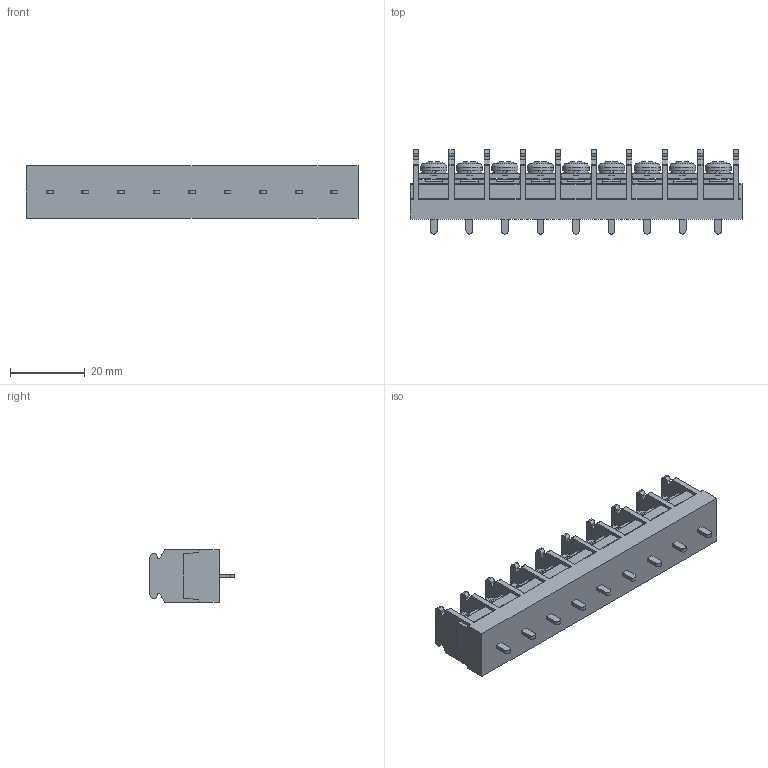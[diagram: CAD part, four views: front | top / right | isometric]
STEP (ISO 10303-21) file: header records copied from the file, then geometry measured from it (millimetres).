
FILE_DESCRIPTION(/* description */ ('Alibre Inc.'),/* implementation_level */ '2;1');
FILE_NAME(/* name */ 'export-8B3BFBFB-07F3-40FA-959B-8FBFAA630BCF',/* time_stamp */ '2021-02-13T14:03:16+09:00',/* author */ (''),/* organization */ (''),/* preprocessor_version */ 'ST-DEVELOPER v17',/* originating_system */ 'Alibre',/* authorisation */ '');
FILE_SCHEMA (('CONFIG_CONTROL_DESIGN'));
Length unit declared in the file: millimetre
Bounding box: 88.7 x 22.5 x 14 mm (x, y, z)
Volume: 15041.6 mm3; surface area: 10201.5 mm2
Topology: 1 solids, 26 shells, 1446 faces, 4059 edges, 2667 vertices
Faces by surface type: plane 1074, cylinder 196, bspline 104, cone 45, torus 18, sphere 9
Full cylindrical faces by diameter (mm): 4 x18, 7 x9
Entity records: 44384 total; most frequent: CARTESIAN_POINT 9124, ORIENTED_EDGE 7974, DIRECTION 5815, EDGE_CURVE 3987, VECTOR 2901, LINE 2901, VERTEX_POINT 2649, AXIS2_PLACEMENT_3D 1966
